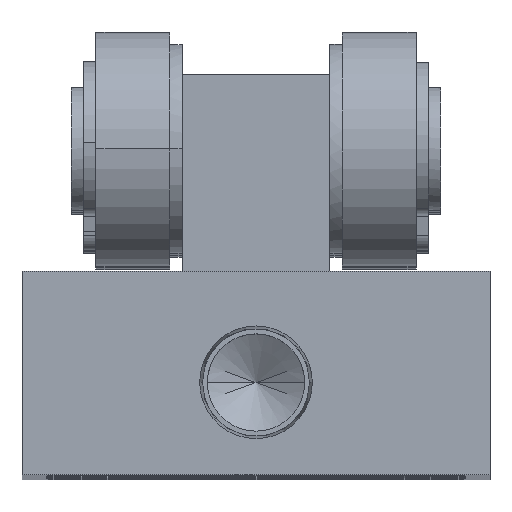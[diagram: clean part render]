
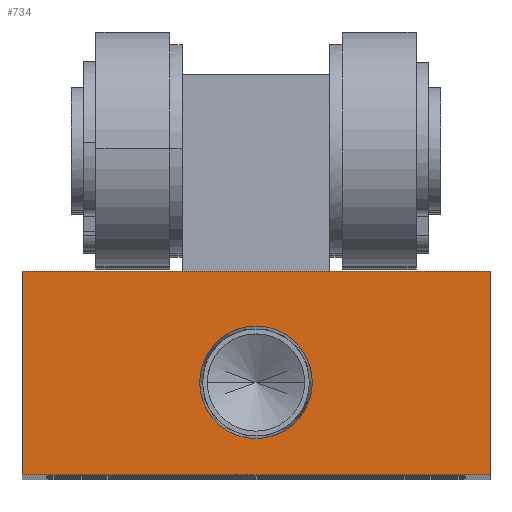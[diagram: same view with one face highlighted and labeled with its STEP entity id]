
A CAD part, top view. The second image highlights one B-rep face of the part: STEP entity #734.
In plain terms, the highlighted planar face has unit normal (0, 0, 1).
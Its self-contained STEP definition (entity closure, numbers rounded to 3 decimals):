
#100 = EDGE_CURVE ( 'NONE', #4652, #1716, #6301, .T. ) ;
#194 = DIRECTION ( 'NONE',  ( 0., 1., 0. ) ) ;
#232 = CARTESIAN_POINT ( 'NONE',  ( -19., 0., 0. ) ) ;
#734 = ADVANCED_FACE ( 'NONE', ( #7197, #3031 ), #4377, .F. ) ;
#739 = DIRECTION ( 'NONE',  ( 0., 0., 1. ) ) ;
#887 = LINE ( 'NONE', #232, #5346 ) ;
#890 = EDGE_CURVE ( 'NONE', #10554, #6720, #8116, .T. ) ;
#924 = EDGE_CURVE ( 'NONE', #2788, #2094, #887, .T. ) ;
#992 = AXIS2_PLACEMENT_3D ( 'NONE', #8533, #6047, #1026 ) ;
#1026 = DIRECTION ( 'NONE',  ( -1., 0., 0. ) ) ;
#1716 = VERTEX_POINT ( 'NONE', #9565 ) ;
#1730 = ORIENTED_EDGE ( 'NONE', *, *, #924, .T. ) ;
#1914 = CARTESIAN_POINT ( 'NONE',  ( 0., 7.5, 0. ) ) ;
#2094 = VERTEX_POINT ( 'NONE', #5103 ) ;
#2151 = ORIENTED_EDGE ( 'NONE', *, *, #3542, .T. ) ;
#2437 = CIRCLE ( 'NONE', #3987, 4.574 ) ;
#2788 = VERTEX_POINT ( 'NONE', #10369 ) ;
#2805 = DIRECTION ( 'NONE',  ( 1., 0., 0. ) ) ;
#3004 = CARTESIAN_POINT ( 'NONE',  ( -19., 16.5, 0. ) ) ;
#3031 = FACE_OUTER_BOUND ( 'NONE', #3727, .T. ) ;
#3071 = EDGE_CURVE ( 'NONE', #1716, #4652, #2437, .T. ) ;
#3542 = EDGE_CURVE ( 'NONE', #2094, #10554, #9529, .T. ) ;
#3680 = CARTESIAN_POINT ( 'NONE',  ( 4.574, 7.5, 0. ) ) ;
#3727 = EDGE_LOOP ( 'NONE', ( #10113, #6609, #1730, #2151 ) ) ;
#3987 = AXIS2_PLACEMENT_3D ( 'NONE', #5758, #739, #6601 ) ;
#3992 = VECTOR ( 'NONE', #8814, 1000. ) ;
#4377 = PLANE ( 'NONE',  #992 ) ;
#4652 = VERTEX_POINT ( 'NONE', #3680 ) ;
#5085 = VECTOR ( 'NONE', #9963, 1000. ) ;
#5103 = CARTESIAN_POINT ( 'NONE',  ( -19., 0., 0. ) ) ;
#5216 = CARTESIAN_POINT ( 'NONE',  ( 19., 0., 0. ) ) ;
#5346 = VECTOR ( 'NONE', #9390, 1000. ) ;
#5619 = VECTOR ( 'NONE', #194, 1000. ) ;
#5644 = EDGE_LOOP ( 'NONE', ( #8150, #7717 ) ) ;
#5758 = CARTESIAN_POINT ( 'NONE',  ( 0., 7.5, 0. ) ) ;
#5959 = EDGE_CURVE ( 'NONE', #6720, #2788, #10659, .T. ) ;
#6047 = DIRECTION ( 'NONE',  ( 0., 0., -1. ) ) ;
#6078 = DIRECTION ( 'NONE',  ( 0., 0., 1. ) ) ;
#6301 = CIRCLE ( 'NONE', #9688, 4.574 ) ;
#6601 = DIRECTION ( 'NONE',  ( 1., 0., 0. ) ) ;
#6609 = ORIENTED_EDGE ( 'NONE', *, *, #5959, .T. ) ;
#6684 = CARTESIAN_POINT ( 'NONE',  ( 19., 16.5, 0. ) ) ;
#6720 = VERTEX_POINT ( 'NONE', #6684 ) ;
#7197 = FACE_BOUND ( 'NONE', #5644, .T. ) ;
#7717 = ORIENTED_EDGE ( 'NONE', *, *, #3071, .F. ) ;
#8116 = LINE ( 'NONE', #5216, #5619 ) ;
#8150 = ORIENTED_EDGE ( 'NONE', *, *, #100, .F. ) ;
#8347 = CARTESIAN_POINT ( 'NONE',  ( 19., 0., 0. ) ) ;
#8533 = CARTESIAN_POINT ( 'NONE',  ( 0., 0., 0. ) ) ;
#8814 = DIRECTION ( 'NONE',  ( -1., 0., 0. ) ) ;
#9390 = DIRECTION ( 'NONE',  ( 0., -1., 0. ) ) ;
#9529 = LINE ( 'NONE', #10800, #5085 ) ;
#9565 = CARTESIAN_POINT ( 'NONE',  ( -4.574, 7.5, 0. ) ) ;
#9688 = AXIS2_PLACEMENT_3D ( 'NONE', #1914, #6078, #2805 ) ;
#9963 = DIRECTION ( 'NONE',  ( 1., 0., 0. ) ) ;
#10113 = ORIENTED_EDGE ( 'NONE', *, *, #890, .T. ) ;
#10369 = CARTESIAN_POINT ( 'NONE',  ( -19., 16.5, 0. ) ) ;
#10554 = VERTEX_POINT ( 'NONE', #8347 ) ;
#10659 = LINE ( 'NONE', #3004, #3992 ) ;
#10800 = CARTESIAN_POINT ( 'NONE',  ( -19., 0., 0. ) ) ;
